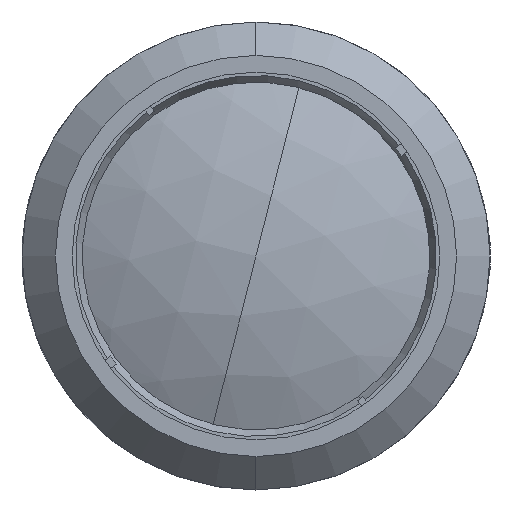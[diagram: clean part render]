
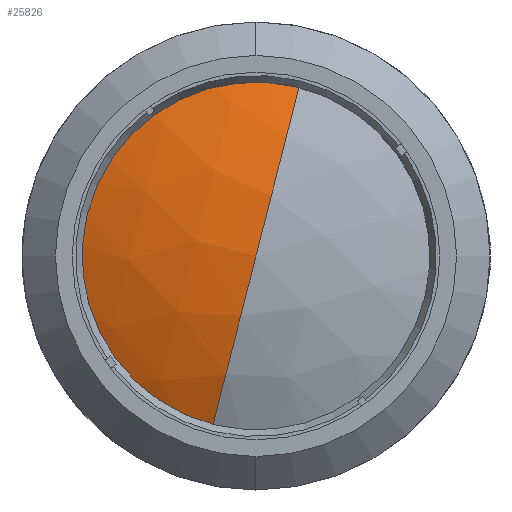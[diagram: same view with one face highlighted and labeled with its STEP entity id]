
A CAD part, left-side view. The second image highlights one B-rep face of the part: STEP entity #25826.
In plain terms, the highlighted spherical face has radius 65.508 mm.
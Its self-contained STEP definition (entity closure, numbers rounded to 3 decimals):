
#394 = EDGE_CURVE ( 'NONE', #1916, #31840, #31357, .T. ) ;
#1916 = VERTEX_POINT ( 'NONE', #34476 ) ;
#2589 = CARTESIAN_POINT ( 'NONE',  ( 66.546, 0., 0. ) ) ;
#3383 = DIRECTION ( 'NONE',  ( 0., 0.969, 0.247 ) ) ;
#4491 = CARTESIAN_POINT ( 'NONE',  ( 66.546, 0., 0. ) ) ;
#6083 = DIRECTION ( 'NONE',  ( 0., -0.247, 0.969 ) ) ;
#8023 = DIRECTION ( 'NONE',  ( 0., 0.247, -0.969 ) ) ;
#8770 = CIRCLE ( 'NONE', #24855, 65.508 ) ;
#9570 = CARTESIAN_POINT ( 'NONE',  ( 1.038, 0., 0. ) ) ;
#10153 = CARTESIAN_POINT ( 'NONE',  ( 6.861, 26.166, 6.66 ) ) ;
#11319 = SPHERICAL_SURFACE ( 'NONE', #26828, 65.508 ) ;
#11555 = VERTEX_POINT ( 'NONE', #28467 ) ;
#15918 = EDGE_CURVE ( 'NONE', #11555, #38999, #8770, .T. ) ;
#16023 = AXIS2_PLACEMENT_3D ( 'NONE', #40494, #19579, #44029 ) ;
#16394 = ORIENTED_EDGE ( 'NONE', *, *, #33174, .T. ) ;
#18419 = FACE_OUTER_BOUND ( 'NONE', #27142, .T. ) ;
#18571 = ORIENTED_EDGE ( 'NONE', *, *, #394, .T. ) ;
#19579 = DIRECTION ( 'NONE',  ( -1., 0., 0. ) ) ;
#22894 = CIRCLE ( 'NONE', #37846, 65.508 ) ;
#23210 = ORIENTED_EDGE ( 'NONE', *, *, #15918, .T. ) ;
#24855 = AXIS2_PLACEMENT_3D ( 'NONE', #2589, #27039, #6083 ) ;
#25826 = ADVANCED_FACE ( 'NONE', ( #18419 ), #11319, .T. ) ;
#26828 = AXIS2_PLACEMENT_3D ( 'NONE', #41692, #3383, #27867 ) ;
#27039 = DIRECTION ( 'NONE',  ( 0., 0.969, 0.247 ) ) ;
#27142 = EDGE_LOOP ( 'NONE', ( #18571, #16394, #23210, #27608 ) ) ;
#27608 = ORIENTED_EDGE ( 'NONE', *, *, #42179, .F. ) ;
#27867 = DIRECTION ( 'NONE',  ( 0., -0.247, 0.969 ) ) ;
#28467 = CARTESIAN_POINT ( 'NONE',  ( 6.861, 6.66, -26.166 ) ) ;
#28978 = DIRECTION ( 'NONE',  ( 0., -0.969, -0.247 ) ) ;
#31347 = CIRCLE ( 'NONE', #16023, 27. ) ;
#31357 = CIRCLE ( 'NONE', #40341, 27. ) ;
#31840 = VERTEX_POINT ( 'NONE', #10153 ) ;
#33119 = CARTESIAN_POINT ( 'NONE',  ( 6.861, 0., 0. ) ) ;
#33174 = EDGE_CURVE ( 'NONE', #31840, #11555, #31347, .T. ) ;
#34476 = CARTESIAN_POINT ( 'NONE',  ( 6.861, -6.66, 26.166 ) ) ;
#37846 = AXIS2_PLACEMENT_3D ( 'NONE', #4491, #28978, #8023 ) ;
#38999 = VERTEX_POINT ( 'NONE', #9570 ) ;
#40341 = AXIS2_PLACEMENT_3D ( 'NONE', #33119, #44406, #44600 ) ;
#40494 = CARTESIAN_POINT ( 'NONE',  ( 6.861, 0., 0. ) ) ;
#41692 = CARTESIAN_POINT ( 'NONE',  ( 66.546, 0., 0. ) ) ;
#42179 = EDGE_CURVE ( 'NONE', #1916, #38999, #22894, .T. ) ;
#44029 = DIRECTION ( 'NONE',  ( 0., 0.969, 0.247 ) ) ;
#44406 = DIRECTION ( 'NONE',  ( -1., 0., 0. ) ) ;
#44600 = DIRECTION ( 'NONE',  ( 0., 0.969, 0.247 ) ) ;
